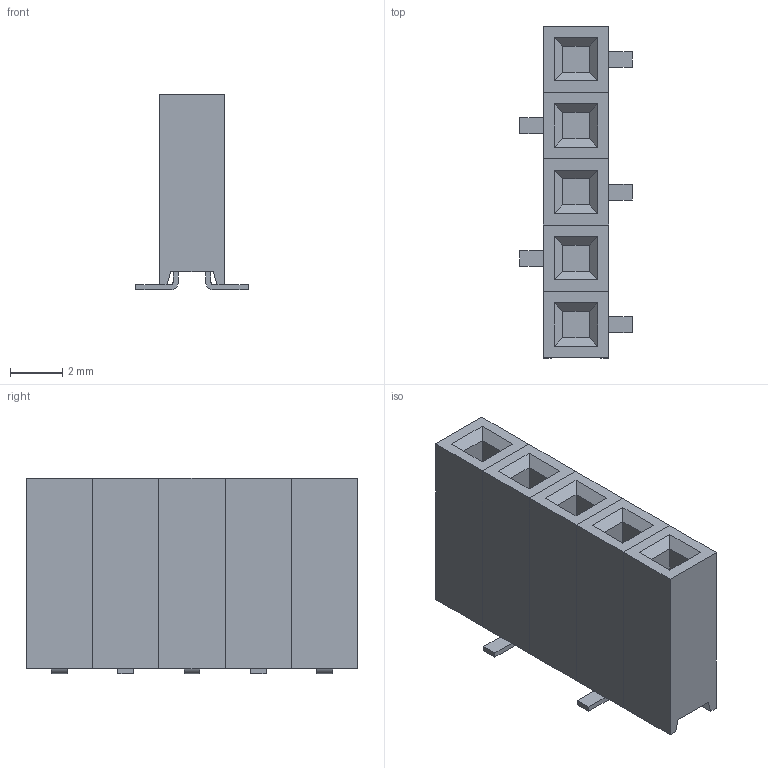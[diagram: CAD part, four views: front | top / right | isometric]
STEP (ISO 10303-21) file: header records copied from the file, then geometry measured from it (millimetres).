
FILE_DESCRIPTION(('FreeCAD Model'),'2;1');
FILE_NAME('Open CASCADE Shape Model','2025-02-24T21:32:58',( 'Krisjanis Rijnieks'),(''),'Open CASCADE STEP processor 7.7', 'FreeCAD','Unknown');
FILE_SCHEMA(('AUTOMOTIVE_DESIGN { 1 0 10303 214 1 1 1 1 }'));
Length unit declared in the file: millimetre
Products named in the file (16): 01x05_P2.54mm_Vertical_SMD; 01x01_P2.54mm_Vertical_SMD010; Body010; Lead010; 01x01_P2.54mm_Vertical_SMD011; Body011; Lead011; 01x01_P2.54mm_Vertical_SMD012; Body012; Lead012; 01x01_P2.54mm_Vertical_SMD013; Body013; Lead013; 01x01_P2.54mm_Vertical_SMD014; Body014; Lead014
Assembly tree (15 placements, depth 3):
  01x05_P2.54mm_Vertical_SMD
    01x01_P2.54mm_Vertical_SMD010
      Body010
      Lead010
    01x01_P2.54mm_Vertical_SMD011
      Body011
      Lead011
    01x01_P2.54mm_Vertical_SMD012
      Body012
      Lead012
    01x01_P2.54mm_Vertical_SMD013
      Body013
      Lead013
    01x01_P2.54mm_Vertical_SMD014
      Body014
      Lead014
Bounding box: 4.3 x 12.7 x 7.5 mm (x, y, z)
Volume: 202.2 mm3; surface area: 529.3 mm2
Topology: 10 solids, 10 shells, 145 faces, 340 edges, 220 vertices
Faces by surface type: plane 135, cylinder 10
Entity records: 4419 total; most frequent: CARTESIAN_POINT 721, DIRECTION 682, ORIENTED_EDGE 680, EDGE_CURVE 340, LINE 320, VECTOR 320, VERTEX_POINT 220, AXIS2_PLACEMENT_3D 181
